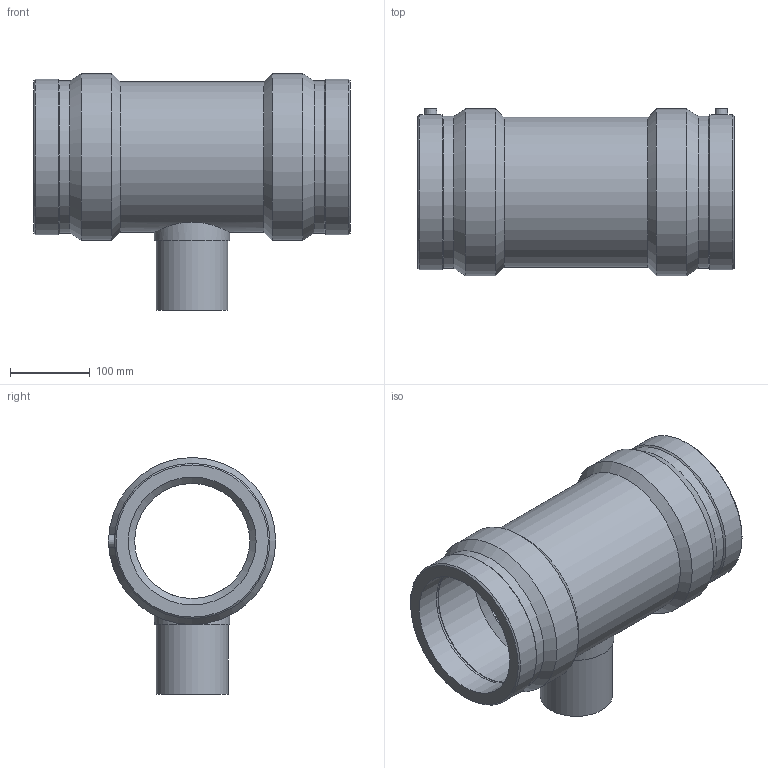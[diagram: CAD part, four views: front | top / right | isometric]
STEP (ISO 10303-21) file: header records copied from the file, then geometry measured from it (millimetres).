
FILE_DESCRIPTION(/* description */ ('PLASSON REDUCING TEE 160x90x160'),/* implementation_level */ '2;1');
FILE_NAME(/* name */ 'C:\Dropbox\KIMPROJECTS-Inventor\99-16-3568-Processing\ElectroFusion Fittings\491404\491404160090.ipt.stp',/* time_stamp */ '2019-09-09T11:27:07+03:00',/* author */ ('KIM'),/* organization */ (''),/* preprocessor_version */ 'ST-DEVELOPER v15.6',/* originating_system */ 'Autodesk Inventor 2015',/* authorisation */ '');
FILE_SCHEMA (('AUTOMOTIVE_DESIGN { 1 0 10303 214 3 1 1 }'));
Length unit declared in the file: millimetre
Products named in the file (1): 491404160090
Bounding box: 396 x 209.5 x 296.5 mm (x, y, z)
Volume: 4736845.6 mm3; surface area: 513649.2 mm2
Topology: 1 solids, 1 shells, 45 faces, 89 edges, 54 vertices
Faces by surface type: cylinder 19, cone 14, plane 12
Full cylindrical faces by diameter (mm): 4 x2, 10 x2, 72 x1, 90 x1, 94.5 x1, 144 x1, 160 x4, 188.1 x1, 190.483 x2, 194.37 x2, 209 x2
Entity records: 1130 total; most frequent: CARTESIAN_POINT 334, DIRECTION 176, EDGE_LOOP 92, ORIENTED_EDGE 92, AXIS2_PLACEMENT_3D 88, FACE_BOUND 47, VERTEX_POINT 46, EDGE_CURVE 46
